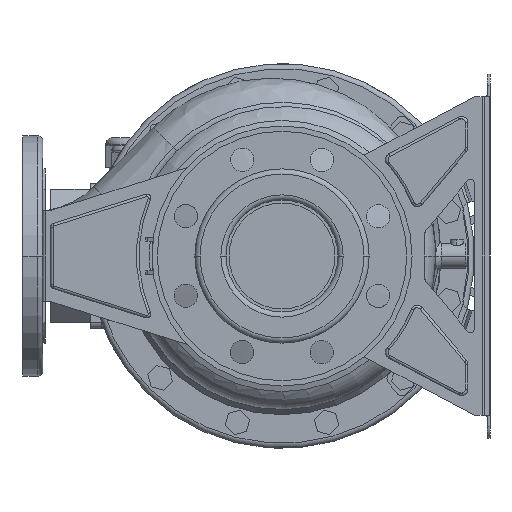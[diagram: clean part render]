
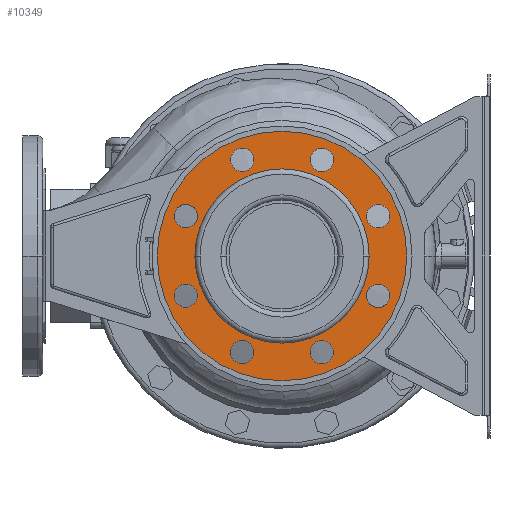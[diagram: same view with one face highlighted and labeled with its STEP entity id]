
A CAD part, left-side view. The second image highlights one B-rep face of the part: STEP entity #10349.
In plain terms, the highlighted planar face has unit normal (-1, 0, 0).
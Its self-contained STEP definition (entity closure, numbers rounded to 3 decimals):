
#9626=CARTESIAN_POINT('',(14.,0.,0.));
#9627=DIRECTION('',(-1.,0.,0.));
#9628=DIRECTION('',(0.,1.,0.));
#9629=AXIS2_PLACEMENT_3D('',#9626,#9627,#9628);
#9631=CARTESIAN_POINT('',(14.,0.,0.));
#9632=DIRECTION('',(1.,0.,0.));
#9633=DIRECTION('',(0.,1.,0.));
#9634=AXIS2_PLACEMENT_3D('',#9631,#9632,#9633);
#9636=CARTESIAN_POINT('',(14.,-73.91,30.615));
#9637=DIRECTION('',(1.,0.,0.));
#9638=DIRECTION('',(0.,1.,0.));
#9639=AXIS2_PLACEMENT_3D('',#9636,#9637,#9638);
#9641=CARTESIAN_POINT('',(14.,-73.91,30.615));
#9642=DIRECTION('',(1.,0.,0.));
#9643=DIRECTION('',(0.,-1.,0.));
#9644=AXIS2_PLACEMENT_3D('',#9641,#9642,#9643);
#9646=CARTESIAN_POINT('',(14.,-73.91,-30.615));
#9647=DIRECTION('',(1.,0.,0.));
#9648=DIRECTION('',(0.,0.707,0.707));
#9649=AXIS2_PLACEMENT_3D('',#9646,#9647,#9648);
#9651=CARTESIAN_POINT('',(14.,-73.91,-30.615));
#9652=DIRECTION('',(1.,0.,0.));
#9653=DIRECTION('',(0.,-0.707,-0.707));
#9654=AXIS2_PLACEMENT_3D('',#9651,#9652,#9653);
#9656=CARTESIAN_POINT('',(14.,-30.615,-73.91));
#9657=DIRECTION('',(1.,0.,0.));
#9658=DIRECTION('',(0.,0.,1.));
#9659=AXIS2_PLACEMENT_3D('',#9656,#9657,#9658);
#9661=CARTESIAN_POINT('',(14.,-30.615,-73.91));
#9662=DIRECTION('',(1.,0.,0.));
#9663=DIRECTION('',(0.,0.,-1.));
#9664=AXIS2_PLACEMENT_3D('',#9661,#9662,#9663);
#9666=CARTESIAN_POINT('',(14.,30.615,-73.91));
#9667=DIRECTION('',(1.,0.,0.));
#9668=DIRECTION('',(0.,-0.707,0.707));
#9669=AXIS2_PLACEMENT_3D('',#9666,#9667,#9668);
#9671=CARTESIAN_POINT('',(14.,30.615,-73.91));
#9672=DIRECTION('',(1.,0.,0.));
#9673=DIRECTION('',(0.,0.707,-0.707));
#9674=AXIS2_PLACEMENT_3D('',#9671,#9672,#9673);
#9676=CARTESIAN_POINT('',(14.,73.91,-30.615));
#9677=DIRECTION('',(1.,0.,0.));
#9678=DIRECTION('',(0.,-1.,0.));
#9679=AXIS2_PLACEMENT_3D('',#9676,#9677,#9678);
#9681=CARTESIAN_POINT('',(14.,73.91,-30.615));
#9682=DIRECTION('',(1.,0.,0.));
#9683=DIRECTION('',(0.,1.,0.));
#9684=AXIS2_PLACEMENT_3D('',#9681,#9682,#9683);
#9686=CARTESIAN_POINT('',(14.,73.91,30.615));
#9687=DIRECTION('',(1.,0.,0.));
#9688=DIRECTION('',(0.,-0.707,-0.707));
#9689=AXIS2_PLACEMENT_3D('',#9686,#9687,#9688);
#9691=CARTESIAN_POINT('',(14.,73.91,30.615));
#9692=DIRECTION('',(1.,0.,0.));
#9693=DIRECTION('',(0.,0.707,0.707));
#9694=AXIS2_PLACEMENT_3D('',#9691,#9692,#9693);
#9696=CARTESIAN_POINT('',(14.,30.615,73.91));
#9697=DIRECTION('',(1.,0.,0.));
#9698=DIRECTION('',(0.,0.,-1.));
#9699=AXIS2_PLACEMENT_3D('',#9696,#9697,#9698);
#9701=CARTESIAN_POINT('',(14.,30.615,73.91));
#9702=DIRECTION('',(1.,0.,0.));
#9703=DIRECTION('',(0.,0.,1.));
#9704=AXIS2_PLACEMENT_3D('',#9701,#9702,#9703);
#9706=CARTESIAN_POINT('',(14.,-30.615,73.91));
#9707=DIRECTION('',(1.,0.,0.));
#9708=DIRECTION('',(0.,0.707,-0.707));
#9709=AXIS2_PLACEMENT_3D('',#9706,#9707,#9708);
#9711=CARTESIAN_POINT('',(14.,-30.615,73.91));
#9712=DIRECTION('',(1.,0.,0.));
#9713=DIRECTION('',(0.,-0.707,0.707));
#9714=AXIS2_PLACEMENT_3D('',#9711,#9712,#9713);
#9716=CARTESIAN_POINT('',(14.,0.,0.));
#9717=DIRECTION('',(1.,0.,0.));
#9718=DIRECTION('',(0.,1.,0.));
#9719=AXIS2_PLACEMENT_3D('',#9716,#9717,#9718);
#9729=CARTESIAN_POINT('',(14.,0.,0.));
#9730=DIRECTION('',(-1.,0.,0.));
#9731=DIRECTION('',(0.,1.,0.));
#9732=AXIS2_PLACEMENT_3D('',#9729,#9730,#9731);
#9869=CARTESIAN_POINT('',(14.,96.,0.));
#9871=VERTEX_POINT('',#9869);
#9872=CARTESIAN_POINT('',(14.,67.,0.));
#9874=VERTEX_POINT('',#9872);
#9901=CARTESIAN_POINT('',(14.,-96.,0.));
#9903=VERTEX_POINT('',#9901);
#9904=CARTESIAN_POINT('',(14.,-67.,0.));
#9906=VERTEX_POINT('',#9904);
#9916=CARTESIAN_POINT('',(14.,-64.91,30.615));
#9917=CARTESIAN_POINT('',(14.,-82.91,30.615));
#9918=VERTEX_POINT('',#9916);
#9919=VERTEX_POINT('',#9917);
#9924=CARTESIAN_POINT('',(14.,-67.546,-24.251));
#9925=CARTESIAN_POINT('',(14.,-80.274,-36.979));
#9926=VERTEX_POINT('',#9924);
#9927=VERTEX_POINT('',#9925);
#9932=CARTESIAN_POINT('',(14.,-30.615,-64.91));
#9933=CARTESIAN_POINT('',(14.,-30.615,-82.91));
#9934=VERTEX_POINT('',#9932);
#9935=VERTEX_POINT('',#9933);
#9940=CARTESIAN_POINT('',(14.,24.251,-67.546));
#9941=CARTESIAN_POINT('',(14.,36.979,-80.274));
#9942=VERTEX_POINT('',#9940);
#9943=VERTEX_POINT('',#9941);
#9948=CARTESIAN_POINT('',(14.,64.91,-30.615));
#9949=CARTESIAN_POINT('',(14.,82.91,-30.615));
#9950=VERTEX_POINT('',#9948);
#9951=VERTEX_POINT('',#9949);
#9956=CARTESIAN_POINT('',(14.,67.546,24.251));
#9957=CARTESIAN_POINT('',(14.,80.274,36.979));
#9958=VERTEX_POINT('',#9956);
#9959=VERTEX_POINT('',#9957);
#9964=CARTESIAN_POINT('',(14.,30.615,64.91));
#9965=CARTESIAN_POINT('',(14.,30.615,82.91));
#9966=VERTEX_POINT('',#9964);
#9967=VERTEX_POINT('',#9965);
#9972=CARTESIAN_POINT('',(14.,-24.251,67.546));
#9973=CARTESIAN_POINT('',(14.,-36.979,80.274));
#9974=VERTEX_POINT('',#9972);
#9975=VERTEX_POINT('',#9973);
#10286=CARTESIAN_POINT('',(14.,0.,0.));
#10287=DIRECTION('',(1.,0.,0.));
#10288=DIRECTION('',(0.,-1.,0.));
#10289=AXIS2_PLACEMENT_3D('',#10286,#10287,#10288);
#10290=PLANE('',#10289);
#10291=ORIENTED_EDGE('',*,*,#10279,.F.);
#10292=ORIENTED_EDGE('',*,*,#10268,.T.);
#10293=EDGE_LOOP('',(#10291,#10292));
#10294=FACE_OUTER_BOUND('',#10293,.F.);
#10296=ORIENTED_EDGE('',*,*,#10295,.F.);
#10298=ORIENTED_EDGE('',*,*,#10297,.T.);
#10299=EDGE_LOOP('',(#10296,#10298));
#10300=FACE_BOUND('',#10299,.F.);
#10302=ORIENTED_EDGE('',*,*,#10301,.F.);
#10304=ORIENTED_EDGE('',*,*,#10303,.F.);
#10305=EDGE_LOOP('',(#10302,#10304));
#10306=FACE_BOUND('',#10305,.F.);
#10308=ORIENTED_EDGE('',*,*,#10307,.F.);
#10310=ORIENTED_EDGE('',*,*,#10309,.F.);
#10311=EDGE_LOOP('',(#10308,#10310));
#10312=FACE_BOUND('',#10311,.F.);
#10314=ORIENTED_EDGE('',*,*,#10313,.F.);
#10316=ORIENTED_EDGE('',*,*,#10315,.F.);
#10317=EDGE_LOOP('',(#10314,#10316));
#10318=FACE_BOUND('',#10317,.F.);
#10320=ORIENTED_EDGE('',*,*,#10319,.F.);
#10322=ORIENTED_EDGE('',*,*,#10321,.F.);
#10323=EDGE_LOOP('',(#10320,#10322));
#10324=FACE_BOUND('',#10323,.F.);
#10326=ORIENTED_EDGE('',*,*,#10325,.F.);
#10328=ORIENTED_EDGE('',*,*,#10327,.F.);
#10329=EDGE_LOOP('',(#10326,#10328));
#10330=FACE_BOUND('',#10329,.F.);
#10332=ORIENTED_EDGE('',*,*,#10331,.F.);
#10334=ORIENTED_EDGE('',*,*,#10333,.F.);
#10335=EDGE_LOOP('',(#10332,#10334));
#10336=FACE_BOUND('',#10335,.F.);
#10338=ORIENTED_EDGE('',*,*,#10337,.F.);
#10340=ORIENTED_EDGE('',*,*,#10339,.F.);
#10341=EDGE_LOOP('',(#10338,#10340));
#10342=FACE_BOUND('',#10341,.F.);
#10344=ORIENTED_EDGE('',*,*,#10343,.F.);
#10346=ORIENTED_EDGE('',*,*,#10345,.F.);
#10347=EDGE_LOOP('',(#10344,#10346));
#10348=FACE_BOUND('',#10347,.F.);
#10349=ADVANCED_FACE('',(#10294,#10300,#10306,#10312,#10318,#10324,#10330,
#10336,#10342,#10348),#10290,.F.);
#9630=CIRCLE('',#9629,96.);
#9635=CIRCLE('',#9634,96.);
#9640=CIRCLE('',#9639,9.);
#9645=CIRCLE('',#9644,9.);
#9650=CIRCLE('',#9649,9.);
#9655=CIRCLE('',#9654,9.);
#9660=CIRCLE('',#9659,9.);
#9665=CIRCLE('',#9664,9.);
#9670=CIRCLE('',#9669,9.);
#9675=CIRCLE('',#9674,9.);
#9680=CIRCLE('',#9679,9.);
#9685=CIRCLE('',#9684,9.);
#9690=CIRCLE('',#9689,9.);
#9695=CIRCLE('',#9694,9.);
#9700=CIRCLE('',#9699,9.);
#9705=CIRCLE('',#9704,9.);
#9710=CIRCLE('',#9709,9.);
#9715=CIRCLE('',#9714,9.);
#9720=CIRCLE('',#9719,67.);
#9733=CIRCLE('',#9732,67.);
#10268=EDGE_CURVE('',#9871,#9903,#9635,.T.);
#10279=EDGE_CURVE('',#9871,#9903,#9630,.T.);
#10295=EDGE_CURVE('',#9874,#9906,#9720,.T.);
#10297=EDGE_CURVE('',#9874,#9906,#9733,.T.);
#10301=EDGE_CURVE('',#9918,#9919,#9640,.T.);
#10303=EDGE_CURVE('',#9919,#9918,#9645,.T.);
#10307=EDGE_CURVE('',#9926,#9927,#9650,.T.);
#10309=EDGE_CURVE('',#9927,#9926,#9655,.T.);
#10313=EDGE_CURVE('',#9934,#9935,#9660,.T.);
#10315=EDGE_CURVE('',#9935,#9934,#9665,.T.);
#10319=EDGE_CURVE('',#9942,#9943,#9670,.T.);
#10321=EDGE_CURVE('',#9943,#9942,#9675,.T.);
#10325=EDGE_CURVE('',#9950,#9951,#9680,.T.);
#10327=EDGE_CURVE('',#9951,#9950,#9685,.T.);
#10331=EDGE_CURVE('',#9958,#9959,#9690,.T.);
#10333=EDGE_CURVE('',#9959,#9958,#9695,.T.);
#10337=EDGE_CURVE('',#9966,#9967,#9700,.T.);
#10339=EDGE_CURVE('',#9967,#9966,#9705,.T.);
#10343=EDGE_CURVE('',#9974,#9975,#9710,.T.);
#10345=EDGE_CURVE('',#9975,#9974,#9715,.T.);
